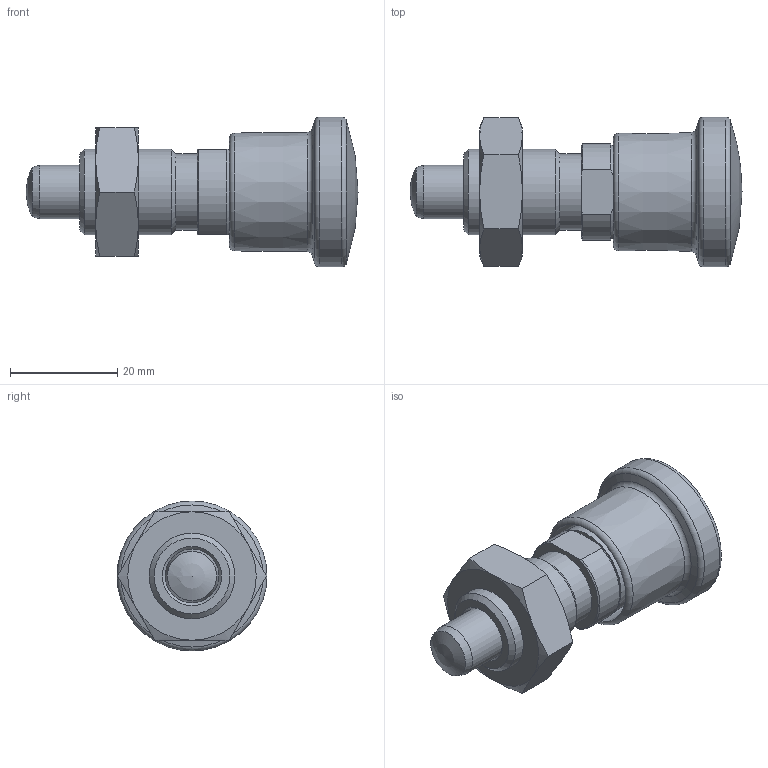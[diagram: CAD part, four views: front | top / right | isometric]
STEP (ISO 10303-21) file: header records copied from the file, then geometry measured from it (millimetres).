
FILE_DESCRIPTION( ( 'STEP AP203' ), '1' );
FILE_NAME( 'C:/Temp/Ganter_Step_05_03_2020/data/3_1/gn816/gn_816_ark/Locking plunger GN 816-10-M16x1,5-ARK (deactivated).stp', '2020-03-12T08:55:53', ( 'License CC BY-ND 4.0' ), ( 'CADENAS' ), ' ', 'PARTsolutions', ' ' );
FILE_SCHEMA( ( 'CONFIG_CONTROL_DESIGN' ) );
Length unit declared in the file: millimetre
Products named in the file (4): Locking plunger GN 816-10-M16x1,5-ARK (deactivated); _GN 816-10-M16x1,5-AR0-2; _GN 816-10-M16x1,5-AR (0)-1; _Lock nut ISO 8675 GN 816-10-M16x1,5-AK
Assembly tree (3 placements, depth 2):
  Locking plunger GN 816-10-M16x1,5-ARK (deactivated)
    _GN 816-10-M16x1,5-AR0-2
    _GN 816-10-M16x1,5-AR (0)-1
    _Lock nut ISO 8675 GN 816-10-M16x1,5-AK
Bounding box: 62 x 28 x 28 mm (x, y, z)
Volume: 17292.2 mm3; surface area: 11926.3 mm2
Topology: 3 solids, 3 shells, 75 faces, 155 edges, 94 vertices
Faces by surface type: cone 29, plane 22, cylinder 16, torus 6, sphere 2
Full cylindrical faces by diameter (mm): 2.9 x2, 3 x2, 7 x1, 10 x2, 11.1 x1, 14.2 x1, 14.376 x1, 16 x1, 18.2 x1, 20.017 x1, 28 x1
Entity records: 2287 total; most frequent: CARTESIAN_POINT 747, DIRECTION 296, ORIENTED_EDGE 228, AXIS2_PLACEMENT_3D 141, EDGE_LOOP 126, EDGE_CURVE 114, FACE_OUTER_BOUND 95, VERTEX_POINT 90
